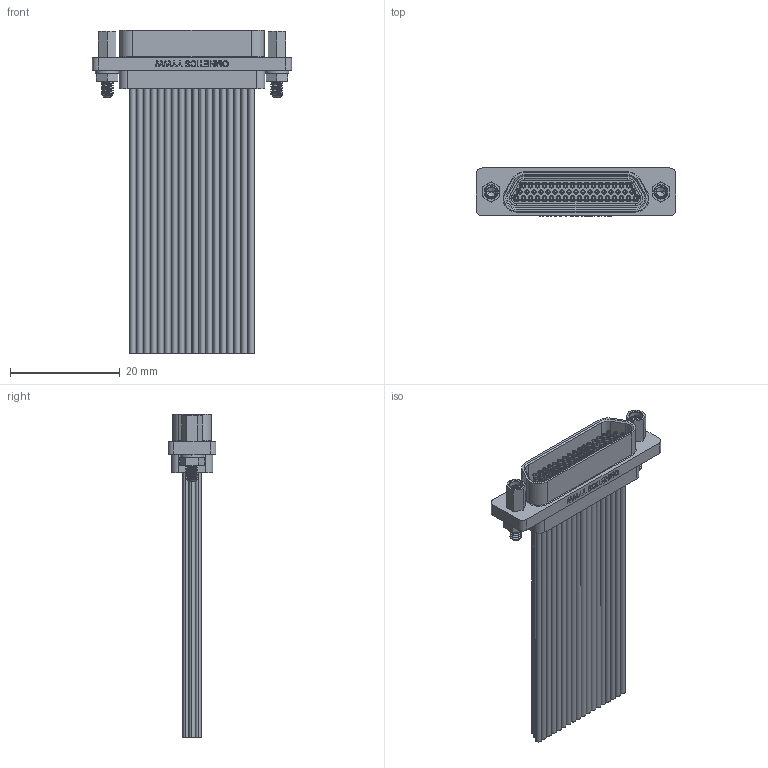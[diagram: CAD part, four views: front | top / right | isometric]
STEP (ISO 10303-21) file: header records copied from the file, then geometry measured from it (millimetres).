
FILE_DESCRIPTION (( 'STEP AP214' ), '1' );
FILE_NAME ('A99101-513 REV B.STEP', '2021-01-27T17:18:41', ( '' ), ( '' ), 'SwSTEP 2.0', 'SolidWorks 2019', '' );
FILE_SCHEMA (( 'AUTOMOTIVE_DESIGN' ));
Length unit declared in the file: inch
Products named in the file (1): A99101-513 REV B
Bounding box: 36.2 x 8.72 x 58.88 mm (x, y, z)
Volume: 4089.5 mm3; surface area: 12780.3 mm2
Topology: 1 solids, 55 shells, 2021 faces, 4491 edges, 2901 vertices
Faces by surface type: cylinder 1065, plane 634, torus 189, bspline 70, cone 63
Entity records: 92863 total; most frequent: CARTESIAN_POINT 20583, DIRECTION 10297, ORIENTED_EDGE 8962, EDGE_CURVE 4481, AXIS2_PLACEMENT_3D 4328, VERTEX_POINT 2901, EDGE_LOOP 2464, CIRCLE 2376
